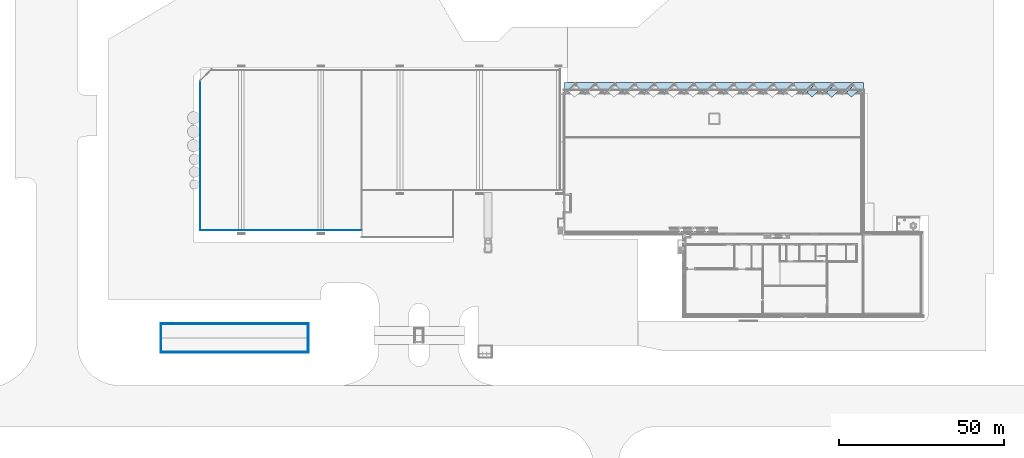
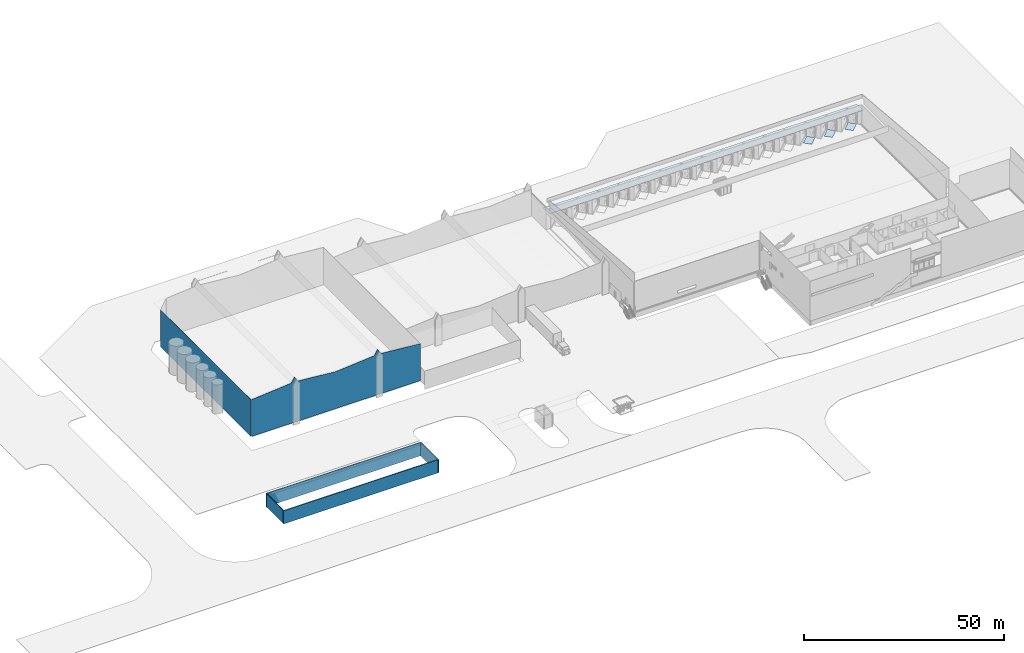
# One storey, part 18 of 64: 6 walls, 4 slabs, 3 openings, 1 element without a shape of its own.
"""IFC2X3 building model written with IfcOpenShell, lengths in millimetres."""

from ifc_helpers import new_model, entity, si_unit, converted_unit, derived_unit, direction, frame, frame_2d, origin, place, context, subcontext, project, spatial, polyline, rectangle, outline, extrude, material, layer, layer_set, layer_usage, type_object, element, aggregate, save


model = new_model("IFC2X3")

# Units and contexts
model_context = context("Model", 3, precision=0.01, world=origin(), true_north=direction((4.05803320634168e-15, -1.0)))
body_context = subcontext(model_context, "Body", "Model", "MODEL_VIEW")
ifc_project = project(units=[si_unit("LENGTHUNIT", "METRE", prefix="MILLI"), si_unit("AREAUNIT", "SQUARE_METRE"), si_unit("VOLUMEUNIT", "CUBIC_METRE"), converted_unit("PLANEANGLEUNIT", "DEGREE", entity("IfcRatioMeasure", 0.0174532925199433), si_unit("PLANEANGLEUNIT", "RADIAN"), dimensions=[0, 0, 0, 0, 0, 0, 0]), si_unit("MASSUNIT", "GRAM", prefix="KILO"), derived_unit("MASSDENSITYUNIT", [(si_unit("MASSUNIT", "GRAM", prefix="KILO"), 1), (si_unit("LENGTHUNIT", "METRE"), -3)]), si_unit("TIMEUNIT", "SECOND"), si_unit("FREQUENCYUNIT", "HERTZ"), si_unit("THERMODYNAMICTEMPERATUREUNIT", "DEGREE_CELSIUS"), derived_unit("THERMALTRANSMITTANCEUNIT", [(si_unit("MASSUNIT", "GRAM", prefix="KILO"), 1), (si_unit("THERMODYNAMICTEMPERATUREUNIT", "KELVIN"), -1), (si_unit("TIMEUNIT", "SECOND"), -3)]), derived_unit("VOLUMETRICFLOWRATEUNIT", [(si_unit("LENGTHUNIT", "METRE"), 3), (si_unit("TIMEUNIT", "SECOND"), -1)]), si_unit("ELECTRICCURRENTUNIT", "AMPERE"), si_unit("ELECTRICVOLTAGEUNIT", "VOLT"), si_unit("POWERUNIT", "WATT"), si_unit("FORCEUNIT", "NEWTON", prefix="KILO"), si_unit("ILLUMINANCEUNIT", "LUX"), si_unit("LUMINOUSFLUXUNIT", "LUMEN"), si_unit("LUMINOUSINTENSITYUNIT", "CANDELA"), derived_unit("USERDEFINED", [(si_unit("MASSUNIT", "GRAM", prefix="KILO"), -1), (si_unit("LENGTHUNIT", "METRE"), -2), (si_unit("TIMEUNIT", "SECOND"), 3), (si_unit("LUMINOUSFLUXUNIT", "LUMEN"), 1)]), derived_unit("LINEARVELOCITYUNIT", [(si_unit("LENGTHUNIT", "METRE"), 1), (si_unit("TIMEUNIT", "SECOND"), -1)]), si_unit("PRESSUREUNIT", "PASCAL"), derived_unit("USERDEFINED", [(si_unit("LENGTHUNIT", "METRE"), -2), (si_unit("MASSUNIT", "GRAM", prefix="KILO"), 1), (si_unit("TIMEUNIT", "SECOND"), -2)])], contexts=[model_context])

# Site, building, storey
site_placement = place(None, frame((927466.849349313, 583801.882853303, 0.0), z_axis=(0.0, 0.0, 1.0), x_axis=(-1.0, 0.0, 0.0)))
site = spatial("IfcSite", under=ifc_project, at=site_placement, Name="Surface", CompositionType="ELEMENT")
building_placement = place(site_placement, origin())
building = spatial("IfcBuilding", under=site, at=building_placement, CompositionType="ELEMENT")
storey_placement = place(building_placement, frame((0.0, 0.0, 44170.0)))
storey = spatial("IfcBuildingStorey", under=building, at=storey_placement, Name="Ground FFL", CompositionType="ELEMENT", Elevation=44170.0)

# Roof, slab
roof_placement = place(storey_placement, frame((-135300.59177989, -33901.7403210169, 4024.33556509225)))
roof = element("IfcRoof", 1, at=roof_placement, inside=storey, Name="Basic Roof:Isopanel 100", ObjectType="Basic Roof:Isopanel 100", ShapeType="NOTDEFINED")
ifc_material_1 = material(Name="Isopenal")
ifc_layer_1 = layer(ifc_material_1, 100.0)
ifc_layer_set_1 = layer_set([ifc_layer_1], Name="Basic Roof:Isopanel 100")
slab_1_placement = place(roof_placement, origin())
slab_1 = element("IfcSlab", 2, at=slab_1_placement, material=ifc_layer_set_1, Name="Basic Roof:Isopanel 100", ObjectType="Basic Roof:Isopanel 100", PredefinedType="ROOF", context=body_context, shape_type="SweptSolid", body=[
    extrude(rectangle(XDim=3264.47384795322, YDim=90551.5494500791, at=frame_2d((0.0, -2.1600499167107e-12), x_axis=(0.0, -1.0))), frame((45275.7747250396, 1630.0, 85.4246802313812), z_axis=(0.0, -0.0523359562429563, 0.998629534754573), x_axis=(1.0, 0.0, 0.0)), (0.0, 0.0523359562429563, 0.998629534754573), 100.137234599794),
])
aggregate(roof, [slab_1])

# Slabs
ifc_material_2 = material(Name="Wood - Stained")
ifc_layer_2 = layer(ifc_material_2, 50.0)
ifc_layer_set_2 = layer_set([ifc_layer_2], Name="Floor:Counter")
ifc_layer_usage_1 = layer_usage(ifc_layer_set_2, "AXIS3", "POSITIVE", 0.0)
slab_2_placement = place(storey_placement, frame((-133856.377847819, -33145.9604752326, -50.0)))
element("IfcSlab", 3, at=slab_2_placement, inside=storey, material=ifc_layer_usage_1, Name="Floor:Counter", ObjectType="Floor:Counter", PredefinedType="FLOOR", context=body_context, shape_type="SweptSolid", body=[
    extrude(rectangle(XDim=3081.03749272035, YDim=2185.04626113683, at=frame_2d((41897.2629647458, 0.0), x_axis=(0.707106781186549, -0.707106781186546))), frame((43759.1047310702, 1861.84176632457, 50.0), z_axis=(0.0, 0.0, -1.0), x_axis=(-1.0, 0.0, 0.0)), (0.0, 0.0, 1.0), 49.9999999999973),
])
slab_3_placement = place(storey_placement, frame((-133856.377847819, -33145.9604752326, -50.0)))
element("IfcSlab", 4, at=slab_3_placement, inside=storey, material=ifc_layer_usage_1, Name="Floor:Counter:2", ObjectType="Floor:Counter", PredefinedType="FLOOR", context=body_context, shape_type="SweptSolid", body=[
    extrude(rectangle(XDim=3081.03749272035, YDim=2185.04626113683, at=frame_2d((35911.9396840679, 0.0), x_axis=(0.70710678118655, -0.707106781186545))), frame((43759.1047310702, 1861.84176632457, 50.0), z_axis=(0.0, 0.0, -1.0), x_axis=(-1.0, 0.0, 0.0)), (0.0, 0.0, 1.0), 49.9999999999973),
])
slab_4_placement = place(storey_placement, frame((-133856.377847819, -33145.9604752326, -50.0)))
element("IfcSlab", 5, at=slab_4_placement, inside=storey, material=ifc_layer_usage_1, Name="Floor:Counter:3", ObjectType="Floor:Counter", PredefinedType="FLOOR", context=body_context, shape_type="SweptSolid", body=[
    extrude(rectangle(XDim=3081.03749272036, YDim=2185.04626113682, at=frame_2d((29926.6164033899, 0.0), x_axis=(0.707106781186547, -0.707106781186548))), frame((43759.1047310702, 1861.84176632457, 50.0), z_axis=(0.0, 0.0, -1.0), x_axis=(-1.0, 0.0, 0.0)), (0.0, 0.0, 1.0), 49.9999999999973),
])

# Wall, openings
ifc_material_3 = material(Name="Side cladding")
ifc_layer_3 = layer(ifc_material_3, 38.0)
ifc_layer_set_3 = layer_set([ifc_layer_3], Name="Basic Wall:Cladding dark")
ifc_layer_usage_2 = layer_usage(ifc_layer_set_3, "AXIS2", "POSITIVE", -19.0)
wall_type_1 = type_object("IfcWallType", Name="Basic Wall:Cladding dark", PredefinedType="STANDARD", material=ifc_layer_set_3)
wall_1_placement = place(storey_placement, frame((65219.3004542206, 10813.6738606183, 0.0), z_axis=(0.0, 0.0, 1.0), x_axis=(-1.0, 0.0, 0.0)))
wall_1 = element("IfcWallStandardCase", 6, at=wall_1_placement, inside=storey, type_object=wall_type_1, material=ifc_layer_usage_2, Name="Basic Wall:Cladding dark", ObjectType="Basic Wall:Cladding dark", context=body_context, shape_type="SweptSolid", body=[
    extrude(rectangle(XDim=48808.4425784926, YDim=38.0, at=frame_2d((24404.2212892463, -1.35003119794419e-13), x_axis=(-1.0, 0.0))), origin(), (0.0, 0.0, 1.0), 13913.2295723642),
])
opening_1_placement = place(wall_1_placement, origin())
element("IfcOpeningElement", 7, at=opening_1_placement, cuts=wall_1, Name="Basic Wall:Cladding dark", ObjectType="Opening", context=body_context, shape_type="SweptSolid", body=[
    extrude(outline(polyline([(-1571.91238862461, -5946.34062640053), (1072.45355193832, -5946.34062640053), (1072.45355193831, 6421.3406264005), (-572.994715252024, 5471.34062640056), (-1571.91238862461, -5946.34062640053)])), frame((42843.1019520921, 19.0, 12840.7760204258), z_axis=(0.0, -1.0, 0.0), x_axis=(0.0, 0.0, 1.0)), (0.0, 0.0, 1.0), 38.0),
])
opening_2_placement = place(wall_1_placement, origin())
element("IfcOpeningElement", 8, at=opening_2_placement, cuts=wall_1, Name="Basic Wall:Cladding dark", ObjectType="Opening", context=body_context, shape_type="SweptSolid", body=[
    extrude(outline(polyline([(-12007.7611488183, -1180.75470921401), (12007.7611488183, -1180.75470921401), (11057.7611488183, 464.693557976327), (0.0, 1432.12230247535), (-11057.7611488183, 464.693557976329), (-12007.7611488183, -1180.75470921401)])), frame((24414.0001768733, 19.0, 12732.4748631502), z_axis=(0.0, -1.0, 0.0), x_axis=(-1.0, 0.0, 0.0)), (0.0, 0.0, 1.0), 38.0),
])
opening_3_placement = place(wall_1_placement, origin())
element("IfcOpeningElement", 9, at=opening_3_placement, cuts=wall_1, Name="Basic Wall:Cladding dark", ObjectType="Opening", context=body_context, shape_type="SweptSolid", body=[
    extrude(outline(polyline([(-6440.61951402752, -1073.29689399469), (5965.61951402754, -1073.29689399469), (5965.61951402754, 1574.44241479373), (-5490.61951402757, 572.151373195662), (-6440.61951402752, -1073.29689399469)])), frame((5965.61951402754, 19.0, 12839.9326783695), z_axis=(0.0, -1.0, 0.0), x_axis=(-1.0, 0.0, 0.0)), (0.0, 0.0, 1.0), 38.0),
])

# Walls
ifc_layer_usage_3 = layer_usage(ifc_layer_set_3, "AXIS2", "NEGATIVE", 19.0)
wall_2_placement = place(storey_placement, frame((65303.3917816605, -34411.7922334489, 0.0), z_axis=(0.0, 0.0, 1.0), x_axis=(0.0, 1.0, 0.0)))
element("IfcWallStandardCase", 10, at=wall_2_placement, inside=storey, type_object=wall_type_1, material=ifc_layer_usage_3, Name="Basic Wall:Cladding dark", ObjectType="Basic Wall:Cladding dark", context=body_context, shape_type="SweptSolid", body=[
    extrude(outline(polyline([(45244.4660940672, -19.0), (45244.4660940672, 19.0), (0.0, 19.0), (38.0, -19.0), (45244.4660940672, -19.0)])), origin(), (0.0, 0.0, 1.0), 11303.6027116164),
])
ifc_material_4 = material(Name="Brick, Common")
ifc_layer_4 = layer(ifc_material_4, 110.0)
ifc_material_5 = material(Name="Air")
ifc_layer_5 = layer(ifc_material_5, 50.0)
ifc_layer_6 = layer(ifc_material_4, 110.0)
ifc_layer_set_4 = layer_set([ifc_layer_4, ifc_layer_5, ifc_layer_6], Name="Basic Wall:wall Brick 270")
ifc_layer_usage_4 = layer_usage(ifc_layer_set_4, "AXIS2", "NEGATIVE", 135.0)
wall_type_2 = type_object("IfcWallType", Name="Basic Wall:wall Brick 270", PredefinedType="STANDARD", material=ifc_layer_set_4)
wall_3_placement = place(storey_placement, frame((77280.5657690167, 39056.4460321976, 0.0), z_axis=(0.0, 0.0, 1.0), x_axis=(-1.0, 0.0, 0.0)))
element("IfcWallStandardCase", 11, at=wall_3_placement, inside=storey, type_object=wall_type_2, material=ifc_layer_usage_4, Name="Basic Wall:wall Brick 270", ObjectType="Basic Wall:wall Brick 270", context=body_context, shape_type="SweptSolid", body=[
    extrude(rectangle(XDim=44800.0, YDim=269.999999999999, at=frame_2d((22400.0, -2.54374299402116e-12), x_axis=(-1.0, 0.0))), origin(), (0.0, 0.0, 1.0), 4000.00000000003),
])
ifc_layer_usage_5 = layer_usage(ifc_layer_set_4, "AXIS2", "NEGATIVE", 135.0)
wall_4_placement = place(storey_placement, frame((32615.5657690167, 39191.4460321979, 0.0), z_axis=(0.0, 0.0, 1.0), x_axis=(0.0, 1.0, 0.0)))
element("IfcWallStandardCase", 12, at=wall_4_placement, inside=storey, type_object=wall_type_2, material=ifc_layer_usage_5, Name="Basic Wall:wall Brick 270", ObjectType="Basic Wall:wall Brick 270", context=body_context, shape_type="SweptSolid", body=[
    extrude(rectangle(XDim=8630.00000000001, YDim=269.999999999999, at=frame_2d((4315.00000000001, -1.22213350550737e-12), x_axis=(-1.0, 0.0))), origin(), (0.0, 0.0, 1.0), 4000.0000000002),
])
ifc_layer_usage_6 = layer_usage(ifc_layer_set_4, "AXIS2", "NEGATIVE", 135.0)
wall_5_placement = place(storey_placement, frame((32750.5657690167, 47686.4460321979, 0.0)))
element("IfcWallStandardCase", 13, at=wall_5_placement, inside=storey, type_object=wall_type_2, material=ifc_layer_usage_6, Name="Basic Wall:wall Brick 270", ObjectType="Basic Wall:wall Brick 270", context=body_context, shape_type="SweptSolid", body=[
    extrude(rectangle(XDim=44530.0, YDim=270.000000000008, at=frame_2d((22265.0, 1.12265752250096e-12), x_axis=(-1.0, 0.0))), origin(), (0.0, 0.0, 1.0), 4000.00000000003),
])
ifc_layer_usage_7 = layer_usage(ifc_layer_set_4, "AXIS2", "NEGATIVE", 135.0)
wall_6_placement = place(storey_placement, frame((77145.5657690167, 47551.4460321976, 0.0), z_axis=(0.0, 0.0, 1.0), x_axis=(0.0, -1.0, 0.0)))
element("IfcWallStandardCase", 14, at=wall_6_placement, inside=storey, type_object=wall_type_2, material=ifc_layer_usage_7, Name="Basic Wall:wall Brick 270", ObjectType="Basic Wall:wall Brick 270", context=body_context, shape_type="SweptSolid", body=[
    extrude(rectangle(XDim=8360.00000000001, YDim=270.000000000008, at=frame_2d((4180.00000000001, 2.55795384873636e-13), x_axis=(-1.0, 0.0))), origin(), (0.0, 0.0, 1.0), 3999.99999999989),
])

save(model, "model.ifc")
